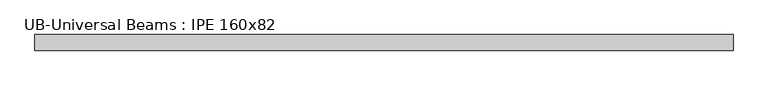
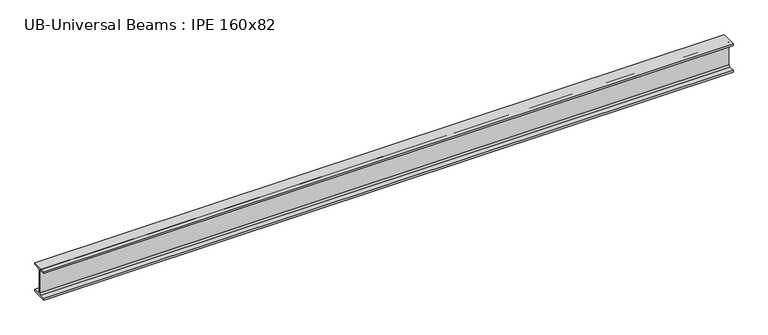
"""IFC4 building model written with IfcOpenShell, lengths in millimetres: beam geometry, UB-Universal Beams : IPE 160x82."""

from ifc_helpers import new_model, si_unit, point, frame, frame_2d, origin, place, context, project, spatial, polyline, circle_curve, trimmed, segment, composite_curve, outline, extrude, source, transform, mapped, element, save


def ub_universal_beams_ipe_160x82_7e898317(model_context):
    return source(origin(), model_context, "Body", "SweptSolid", [
        extrude(outline(composite_curve([segment(polyline([(41.0, -69.8), (41.0, -80.0), (-41.0, -80.0), (-41.0, -69.8), (-11.9, -69.8)]), True, "CONTINUOUS"), segment(trimmed(circle_curve(frame_2d((-11.9, -60.9)), 8.9), [point((-11.9, -69.8))], [point((-3.0, -60.9))], True, "CARTESIAN"), True, "CONTINUOUS"), segment(polyline([(-3.0, -60.9), (-3.0, 60.9)]), True, "CONTINUOUS"), segment(trimmed(circle_curve(frame_2d((-11.9, 60.9)), 8.9), [point((-3.0, 60.9))], [point((-11.9, 69.8))], True, "CARTESIAN"), True, "CONTINUOUS"), segment(polyline([(-11.9, 69.8), (-41.0, 69.8), (-41.0, 80.0), (41.0, 80.0), (41.0, 69.8), (11.9, 69.8)]), True, "CONTINUOUS"), segment(trimmed(circle_curve(frame_2d((11.9, 60.9)), 8.9), [point((11.9, 69.8))], [point((3.0, 60.9))], True, "CARTESIAN"), True, "CONTINUOUS"), segment(polyline([(3.0, 60.9), (3.0, -60.9)]), True, "CONTINUOUS"), segment(trimmed(circle_curve(frame_2d((11.9, -60.9)), 8.9), [point((3.0, -60.9))], [point((11.9, -69.8))], True, "CARTESIAN"), True, "CONTINUOUS"), segment(polyline([(11.9, -69.8), (41.0, -69.8)]), True, "CONTINUOUS")], self_intersect=False)), frame((-1842.7, 0.0, 0.0), z_axis=(1.0, 0.0, 0.0), x_axis=(0.0, 1.0, 0.0)), (0.0, 0.0, 1.0), 3661.8),
    ])


if __name__ == "__main__":
    model = new_model("IFC4")
    model_context = context("Model", 3, world=origin())
    ifc_project = project(units=[si_unit("LENGTHUNIT", "METRE", prefix="MILLI")], contexts=[model_context])
    site = spatial("IfcSite", under=ifc_project)
    building = spatial("IfcBuilding", under=site)
    placement = place(None, origin())
    ub_universal_beams_ipe_160x82_shape = ub_universal_beams_ipe_160x82_7e898317(model_context)
    element("IfcBeam", 1, ObjectType="UB-Universal Beams : IPE 160x82", at=placement, inside=building, context=model_context, shape_type="MappedRepresentation", body=[
        mapped(ub_universal_beams_ipe_160x82_shape, transform((0.0, 0.0, 0.0), x_axis=(1.0, 0.0, 0.0), y_axis=(0.0, 1.0, 0.0), z_axis=(0.0, 0.0, 1.0))),
    ])
    save(model, "model.ifc")
